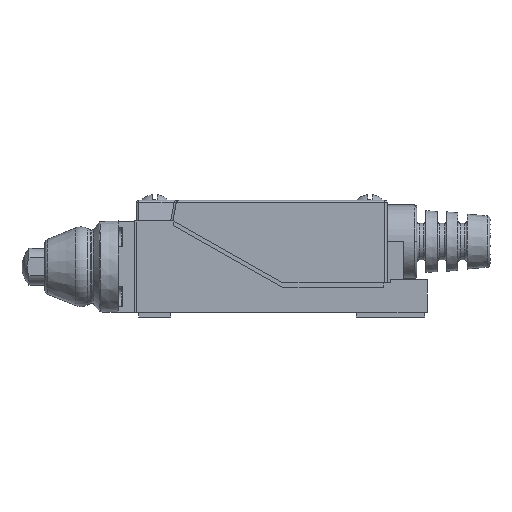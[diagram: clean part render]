
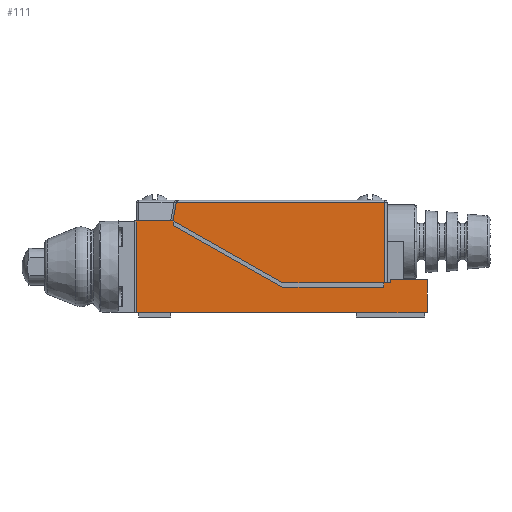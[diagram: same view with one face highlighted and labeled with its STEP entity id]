
A CAD part, front view. The second image highlights one B-rep face of the part: STEP entity #111.
In plain terms, the highlighted planar face has unit normal (0, -1, 0).
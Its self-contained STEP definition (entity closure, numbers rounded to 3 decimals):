
#111=ADVANCED_FACE('',(#677),#679,.T.);
#677=FACE_OUTER_BOUND('',#678,.T.);
#678=EDGE_LOOP('',(#3243,#3244,#3245,#3246,#3247,#3248,#3249,#3250,#3251,#3252,#3253,
#3254,#3255,#3256,#3257,#3258));
#679=PLANE('',#680);
#680=AXIS2_PLACEMENT_3D('',#681,#682,#683);
#681=CARTESIAN_POINT('',(0.,-14.,0.));
#682=DIRECTION('',(0.,-1.,0.));
#683=DIRECTION('',(1.,0.,0.));
#3243=ORIENTED_EDGE('',*,*,#4986,.T.);
#3244=ORIENTED_EDGE('',*,*,#4923,.T.);
#3245=ORIENTED_EDGE('',*,*,#4984,.T.);
#3246=ORIENTED_EDGE('',*,*,#4987,.T.);
#3247=ORIENTED_EDGE('',*,*,#4988,.T.);
#3248=ORIENTED_EDGE('',*,*,#4989,.T.);
#3249=ORIENTED_EDGE('',*,*,#4990,.T.);
#3250=ORIENTED_EDGE('',*,*,#4991,.T.);
#3251=ORIENTED_EDGE('',*,*,#4992,.T.);
#3252=ORIENTED_EDGE('',*,*,#4993,.F.);
#3253=ORIENTED_EDGE('',*,*,#4994,.F.);
#3254=ORIENTED_EDGE('',*,*,#4995,.T.);
#3255=ORIENTED_EDGE('',*,*,#4996,.T.);
#3256=ORIENTED_EDGE('',*,*,#4997,.T.);
#3257=ORIENTED_EDGE('',*,*,#4998,.T.);
#3258=ORIENTED_EDGE('',*,*,#4999,.T.);
#4923=EDGE_CURVE('',#5847,#5849,#5851,.T.);
#4984=EDGE_CURVE('',#5849,#5960,#5962,.T.);
#4986=EDGE_CURVE('',#5964,#5847,#5965,.T.);
#4987=EDGE_CURVE('',#5960,#5966,#5967,.T.);
#4988=EDGE_CURVE('',#5966,#5968,#5969,.T.);
#4989=EDGE_CURVE('',#5968,#5970,#5971,.F.);
#4990=EDGE_CURVE('',#5970,#5972,#5973,.F.);
#4991=EDGE_CURVE('',#5972,#5974,#5975,.F.);
#4992=EDGE_CURVE('',#5974,#5960,#5976,.F.);
#4993=EDGE_CURVE('',#5977,#5960,#5978,.T.);
#4994=EDGE_CURVE('',#5979,#5977,#5980,.T.);
#4995=EDGE_CURVE('',#5979,#5981,#5982,.T.);
#4996=EDGE_CURVE('',#5981,#5983,#5984,.T.);
#4997=EDGE_CURVE('',#5983,#5985,#5986,.F.);
#4998=EDGE_CURVE('',#5985,#5987,#5988,.F.);
#4999=EDGE_CURVE('',#5987,#5964,#5989,.F.);
#5847=VERTEX_POINT('',#7423);
#5849=VERTEX_POINT('',#7428);
#5851=LINE('',#7433,#7434);
#5960=VERTEX_POINT('',#7782);
#5962=LINE('',#7786,#7787);
#5964=VERTEX_POINT('',#7793);
#5965=LINE('',#7794,#7795);
#5966=VERTEX_POINT('',#7797);
#5967=LINE('',#7798,#7799);
#5968=VERTEX_POINT('',#7801);
#5969=LINE('',#7802,#7803);
#5970=VERTEX_POINT('',#7805);
#5971=LINE('',#7806,#7807);
#5972=VERTEX_POINT('',#7809);
#5973=LINE('',#7810,#7811);
#5974=VERTEX_POINT('',#7813);
#5975=LINE('',#7814,#7815);
#5976=LINE('',#7817,#7818);
#5977=VERTEX_POINT('',#7820);
#5978=LINE('',#7821,#7822);
#5979=VERTEX_POINT('',#7824);
#5980=LINE('',#7825,#7826);
#5981=VERTEX_POINT('',#7828);
#5982=LINE('',#7829,#7830);
#5983=VERTEX_POINT('',#7832);
#5984=LINE('',#7833,#7834);
#5985=VERTEX_POINT('',#7836);
#5986=LINE('',#7837,#7838);
#5987=VERTEX_POINT('',#7840);
#5988=LINE('',#7841,#7842);
#5989=LINE('',#7844,#7845);
#7423=CARTESIAN_POINT('',(54.25,-14.,24.));
#7428=CARTESIAN_POINT('',(8.72,-14.,24.));
#7433=CARTESIAN_POINT('',(54.25,-14.,24.));
#7434=VECTOR('',#7435,1.);
#7435=DIRECTION('',(-1.,0.,0.));
#7782=CARTESIAN_POINT('',(8.,-14.,20.));
#7786=CARTESIAN_POINT('',(8.72,-14.,24.));
#7787=VECTOR('',#7788,1.);
#7788=DIRECTION('',(-0.177,0.,-0.984));
#7793=CARTESIAN_POINT('',(54.25,-14.,6.5));
#7794=CARTESIAN_POINT('',(54.25,-14.,6.5));
#7795=VECTOR('',#7796,1.);
#7796=DIRECTION('',(0.,0.,1.));
#7797=CARTESIAN_POINT('',(32.,-14.,6.5));
#7798=CARTESIAN_POINT('',(8.,-14.,20.));
#7799=VECTOR('',#7800,1.);
#7800=DIRECTION('',(0.872,0.,-0.49));
#7801=CARTESIAN_POINT('',(54.,-14.,6.5));
#7802=CARTESIAN_POINT('',(32.,-14.,6.5));
#7803=VECTOR('',#7804,1.);
#7804=DIRECTION('',(1.,0.,0.));
#7805=CARTESIAN_POINT('',(54.,-14.,5.5));
#7806=CARTESIAN_POINT('',(54.,-14.,5.5));
#7807=VECTOR('',#7808,1.);
#7808=DIRECTION('',(0.,0.,1.));
#7809=CARTESIAN_POINT('',(32.,-14.,5.5));
#7810=CARTESIAN_POINT('',(32.,-14.,5.5));
#7811=VECTOR('',#7812,1.);
#7812=DIRECTION('',(1.,0.,0.));
#7813=CARTESIAN_POINT('',(8.,-14.,19.));
#7814=CARTESIAN_POINT('',(8.,-14.,19.));
#7815=VECTOR('',#7816,1.);
#7816=DIRECTION('',(0.872,0.,-0.49));
#7817=CARTESIAN_POINT('',(8.,-14.,20.));
#7818=VECTOR('',#7819,1.);
#7819=DIRECTION('',(0.,0.,-1.));
#7820=CARTESIAN_POINT('',(0.,-14.,20.));
#7821=CARTESIAN_POINT('',(0.,-14.,20.));
#7822=VECTOR('',#7823,1.);
#7823=DIRECTION('',(1.,0.,0.));
#7824=CARTESIAN_POINT('',(0.,-14.,0.));
#7825=CARTESIAN_POINT('',(0.,-14.,0.));
#7826=VECTOR('',#7827,1.);
#7827=DIRECTION('',(0.,0.,1.));
#7828=CARTESIAN_POINT('',(63.5,-14.,0.));
#7829=CARTESIAN_POINT('',(0.,-14.,0.));
#7830=VECTOR('',#7831,1.);
#7831=DIRECTION('',(1.,0.,0.));
#7832=CARTESIAN_POINT('',(63.5,-14.,7.2));
#7833=CARTESIAN_POINT('',(63.5,-14.,0.));
#7834=VECTOR('',#7835,1.);
#7835=DIRECTION('',(0.,0.,1.));
#7836=CARTESIAN_POINT('',(55.5,-14.,7.2));
#7837=CARTESIAN_POINT('',(55.5,-14.,7.2));
#7838=VECTOR('',#7839,1.);
#7839=DIRECTION('',(1.,0.,0.));
#7840=CARTESIAN_POINT('',(55.5,-14.,6.5));
#7841=CARTESIAN_POINT('',(55.5,-14.,6.5));
#7842=VECTOR('',#7843,1.);
#7843=DIRECTION('',(0.,0.,1.));
#7844=CARTESIAN_POINT('',(54.25,-14.,6.5));
#7845=VECTOR('',#7846,1.);
#7846=DIRECTION('',(1.,0.,0.));
